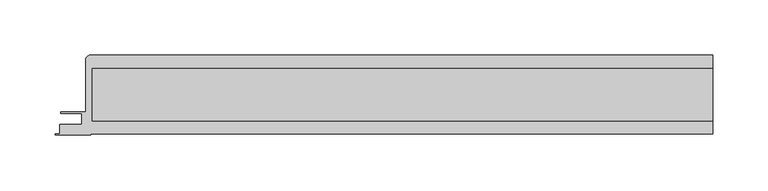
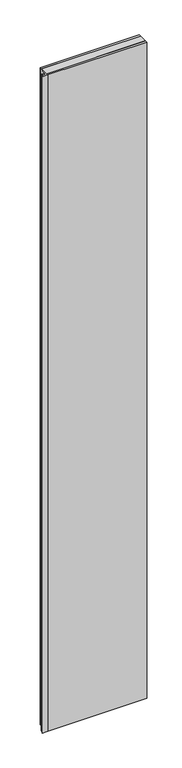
"""IFC4 building model written with IfcOpenShell, lengths in millimetres: plate geometry, Walls_External-Walls_Danpal_Danpatherm-K7-with-AIRPT-Frame : Walls_External-Walls_Danpal_Danpatherm-K7-with-AIRPT-Frame."""

from ifc_helpers import new_model, si_unit, point, frame, frame_2d, origin, place, context, project, spatial, polyline, circle_curve, trimmed, segment, composite_curve, outline, extrude, source, transform, mapped, element, save


def plate_6e1f941d(model_context):
    return source(origin(), model_context, "Body", "SweptSolid", [
        extrude(outline(polyline([(-277.7129481, 60.3432727), (283.309327, 60.3432727), (283.309327, 12.7999917), (-277.7129481, 12.7999917), (-277.7129481, 60.3432727)])), frame((0.0, 0.0, -22.0), z_axis=(0.0, 0.0, 1.0), x_axis=(1.0, 0.0, 0.0)), (0.0, 0.0, 1.0), 3948.6186541),
        extrude(outline(composite_curve([segment(polyline([(-279.4664181, 72.343285), (283.309327, 72.343285), (283.309327, 60.3432727), (-277.7129481, 60.3432727), (-277.7129481, 12.7999917), (283.309327, 12.7999917), (283.309327, 0.8), (-279.0523184, 0.8), (-279.0523184, 0.0), (-310.9523184, 0.0), (-310.9523184, 0.8), (-306.7523184, 0.8), (-306.7523184, 9.7656785), (-286.9225586, 9.7656785), (-286.9225586, 19.6715177), (-305.8787043, 19.6715177), (-305.8787043, 20.9715623), (-283.309327, 20.9715623), (-283.309327, 68.5003761)]), True, "CONTINUOUS"), segment(trimmed(circle_curve(frame_2d((-279.4664181, 68.5003761)), 3.8429089), [point((-283.309327, 68.5003761))], [point((-279.4664181, 72.343285))], False, "CARTESIAN"), True, "CONTINUOUS")], self_intersect=False)), frame((0.0, 0.0, -22.0), z_axis=(0.0, 0.0, 1.0), x_axis=(1.0, 0.0, 0.0)), (0.0, 0.0, 1.0), 3948.6186541),
    ])


if __name__ == "__main__":
    model = new_model("IFC4")
    model_context = context("Model", 3, world=origin())
    ifc_project = project(units=[si_unit("LENGTHUNIT", "METRE", prefix="MILLI")], contexts=[model_context])
    site = spatial("IfcSite", under=ifc_project)
    building = spatial("IfcBuilding", under=site)
    placement = place(None, origin())
    plate_shape = plate_6e1f941d(model_context)
    element("IfcPlate", 1, ObjectType="Walls_External-Walls_Danpal_Danpatherm-K7-with-AIRPT-Frame : Walls_External-Walls_Danpal_Danpatherm-K7-with-AIRPT-Frame", at=placement, inside=building, context=model_context, shape_type="MappedRepresentation", body=[
        mapped(plate_shape, transform((0.0, 0.0, 0.0), x_axis=(1.0, 0.0, 0.0), y_axis=(0.0, 1.0, 0.0), z_axis=(0.0, 0.0, 1.0))),
    ])
    save(model, "model.ifc")
